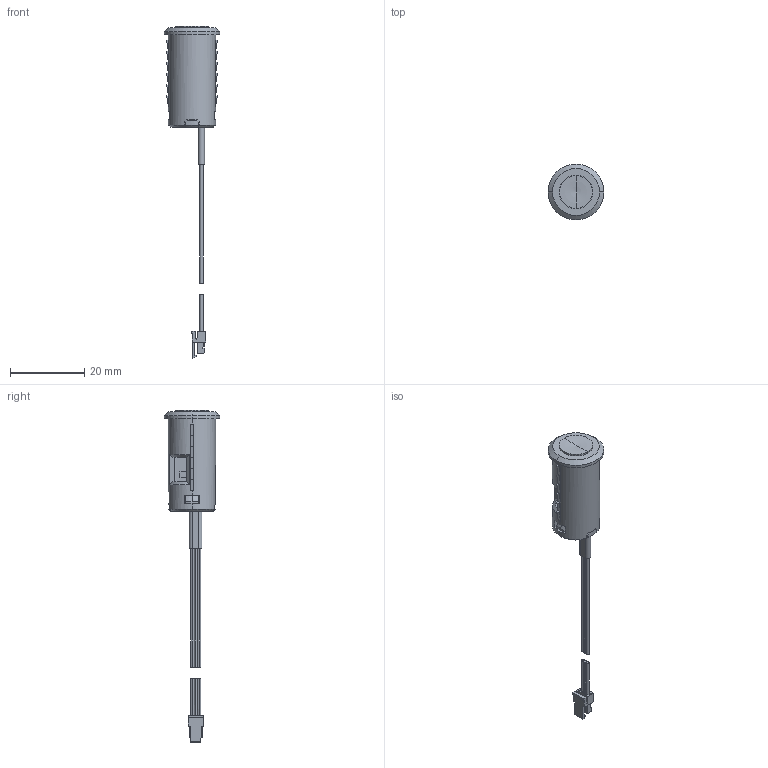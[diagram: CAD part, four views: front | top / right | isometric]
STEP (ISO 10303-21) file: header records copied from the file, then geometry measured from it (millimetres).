
FILE_DESCRIPTION (( 'STEP AP203' ), '1' );
FILE_NAME ('MultiSwitch_Schalter_24.STEP', '2024-12-03T05:37:30', ( '' ), ( '' ), 'SwSTEP 2.0', 'SolidWorks 2023', '' );
FILE_SCHEMA (( 'CONFIG_CONTROL_DESIGN' ));
Length unit declared in the file: millimetre
Products named in the file (9): 2516501_Pr2269_rubber_cap_MTB2; MultiSwitch_Schalter_24; 4732502_P03339_PCB_MultiSwitch2_Schalter2_Platine_in_schwarz; Stecker_A1005-HA3P_kurz; Stecker_A1005-HA3P_lang; 2516306_Pr2269_Housing_Multipushbutton_with_switch_schwarz; 3944001_Standard - kurz; Schrumpfschlauch_LED_Kabel; 2516405
Assembly tree (8 placements, depth 3):
  MultiSwitch_Schalter_24
    2516306_Pr2269_Housing_Multipushbutton_with_switch_schwarz
    2516501_Pr2269_rubber_cap_MTB2
    4732502_P03339_PCB_MultiSwitch2_Schalter2_Platine_in_schwarz
    2516405
    Schrumpfschlauch_LED_Kabel
    3944001_Standard - kurz
      Stecker_A1005-HA3P_kurz
      Stecker_A1005-HA3P_lang
Bounding box: 15 x 15 x 89.5 mm (x, y, z)
Volume: 2427.1 mm3; surface area: 5266.9 mm2
Topology: 19 solids, 19 shells, 625 faces, 1696 edges, 1109 vertices
Faces by surface type: plane 473, cylinder 115, cone 33, torus 2, bspline 2
Entity records: 20574 total; most frequent: CARTESIAN_POINT 3714, ORIENTED_EDGE 3382, DIRECTION 3228, EDGE_CURVE 1691, LINE 1288, VECTOR 1288, VERTEX_POINT 1109, AXIS2_PLACEMENT_3D 970
